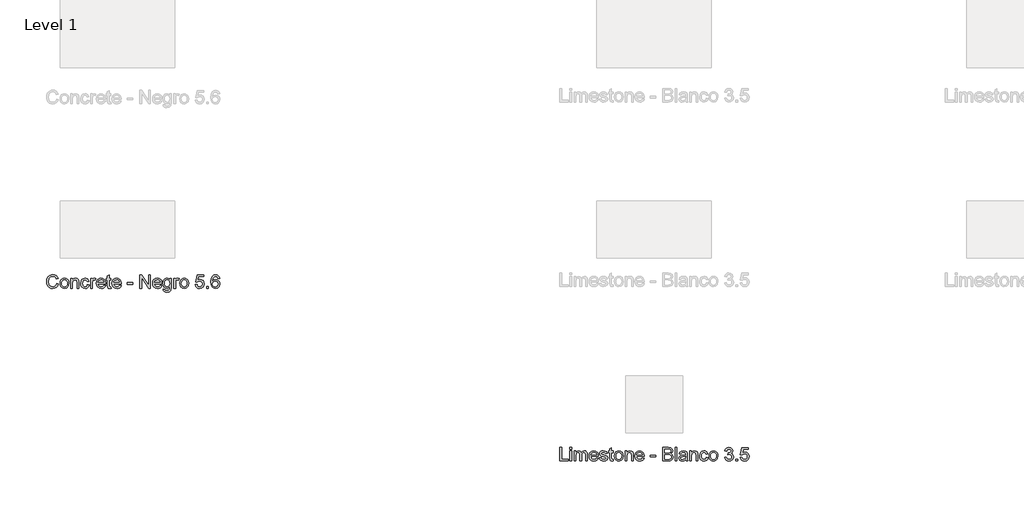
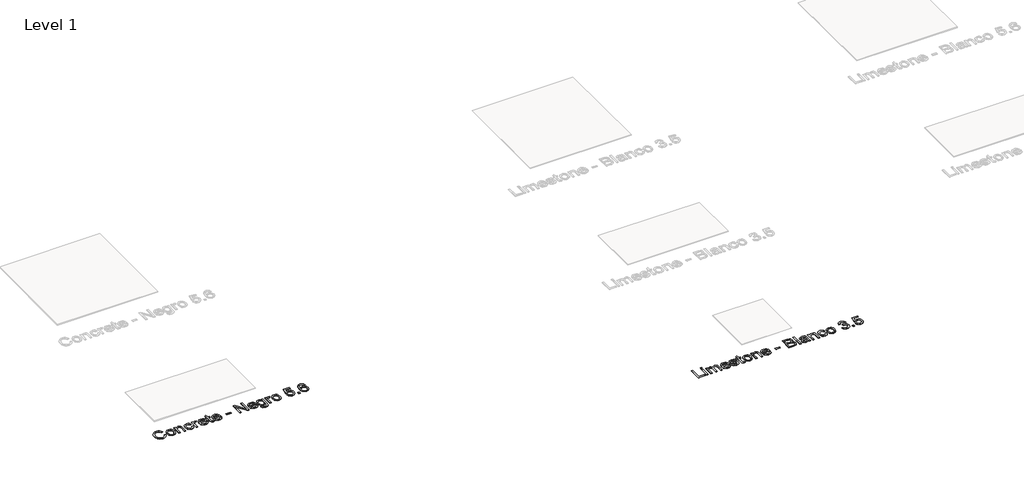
# One storey, part 63 of 80: 2 proxies.
"""IFC4 building model written with IfcOpenShell, lengths in millimetres."""

from ifc_helpers import new_model, si_unit, origin, origin_with_axes, place, context, project, spatial, polyline, outline, extrude, element, save

model = new_model("IFC4")

# Units and contexts
model_context = context("Model", 3, world=origin())
ifc_project = project(units=[si_unit("LENGTHUNIT", "METRE", prefix="MILLI")], contexts=[model_context])

# Site, building, storey
site = spatial("IfcSite", under=ifc_project)
building = spatial("IfcBuilding", under=site)
storey = spatial("IfcBuildingStorey", under=building, Name="Level 1", Elevation=0.0)

# Proxies
placement = place(None, origin())
element("IfcBuildingElementProxy", 1, Name="24\" Arial", ObjectType="24\" Arial", at=placement, inside=storey, context=model_context, shape_type="SweptSolid", body=[
    extrude(outline(polyline([(301.846969, 7132.3794502), (316.6161998, 7128.5717579), (309.8012959, 7111.3614213), (299.1065844, 7098.788104), (285.0585075, 7091.0969982), (268.1835075, 7088.5332963), (251.0524979, 7090.4732002), (237.4479306, 7096.2929117), (227.0200459, 7105.7905079), (219.4190844, 7118.7640655), (214.7784594, 7134.0164694), (213.2315844, 7150.350604), (214.9803825, 7167.5789694), (220.2267767, 7182.4563732), (228.6967286, 7194.5104598), (240.1161998, 7203.2688732), (253.659469, 7208.6018059), (268.5008152, 7210.3794502), (284.6943248, 7208.0789694), (298.0825459, 7201.1775271), (308.2472094, 7190.100604), (314.7700459, 7175.2736809), (300.0008152, 7171.7544502), (294.8806229, 7182.5248829), (287.8854306, 7189.913104), (278.9286998, 7194.1859405), (267.9238921, 7195.6102194), (255.2387959, 7194.0308925), (244.8181229, 7189.2929117), (236.9106709, 7181.8938732), (231.7652383, 7172.3313732), (228.0008152, 7150.3794502), (232.4575459, 7124.9371425), (238.1546613, 7115.4359405), (246.3325459, 7108.6823348), (266.7123536, 7103.3025271), (279.0404786, 7105.1342579), (289.3133152, 7110.6294502), (297.0693248, 7119.7304117), (301.846969, 7132.3794502)])), origin_with_axes(), (0.0, 0.0, 1.0), 2.0),
    extrude(outline(polyline([(331.3854306, 7133.7640655), (334.5801421, 7154.6847386), (344.1642767, 7169.3890655), (356.0056229, 7176.5933925), (370.1835075, 7178.9948348), (385.6991325, 7176.0705559), (398.0921613, 7167.2977194), (406.2159594, 7153.3686329), (408.9238921, 7134.975604), (404.1354306, 7108.6967579), (390.1883152, 7093.8265655), (370.1835075, 7088.5332963), (354.4803825, 7091.4467579), (342.1017767, 7100.1871425), (334.0645171, 7114.4082963), (331.3854306, 7133.7640655)]), holes=[polyline([(346.1546613, 7133.7929117), (347.8637959, 7120.4263252), (352.9911998, 7110.9034886), (360.7075459, 7105.2027675), (370.1835075, 7103.3025271), (379.6161998, 7105.2135848), (387.3181229, 7110.9467579), (392.4455267, 7120.5957963), (394.1546613, 7134.2544502), (392.4347094, 7147.2316136), (387.2748536, 7156.6246425), (379.5621133, 7162.3253636), (370.1835075, 7164.225604), (360.7075459, 7162.3325752), (352.9911998, 7156.6534886), (347.8637959, 7147.1522867), (346.1546613, 7133.7929117)])]), origin_with_axes(), (0.0, 0.0, 1.0), 2.0),
    extrude(outline(polyline([(425.5392767, 7090.3794502), (425.5392767, 7177.1486809), (440.3085075, 7177.1486809), (440.3085075, 7165.0332963), (451.6017767, 7175.5044502), (467.0200459, 7178.9948348), (480.9671613, 7176.1823348), (490.4863921, 7168.7977194), (494.9142767, 7157.9371425), (495.6931229, 7143.6582963), (495.6931229, 7090.3794502), (480.9238921, 7090.3794502), (480.9238921, 7141.6679117), (479.221969, 7154.7352194), (473.2075459, 7161.6438732), (463.0681229, 7164.225604), (447.0440844, 7158.4275271), (441.9924017, 7150.0260848), (440.3085075, 7136.4179117), (440.3085075, 7090.3794502), (425.5392767, 7090.3794502)])), origin_with_axes(), (0.0, 0.0, 1.0), 2.0),
    extrude(outline(polyline([(571.3854306, 7121.7640655), (586.1546613, 7119.9179117), (582.0368729, 7106.7820944), (574.2988921, 7096.8554117), (563.6690844, 7090.6138252), (550.8758152, 7088.5332963), (535.1654786, 7091.4359405), (522.8806229, 7100.1438732), (514.9515363, 7114.2748829), (512.3085075, 7133.4467579), (516.8229306, 7157.9804117), (522.5200459, 7167.178729), (530.5825459, 7173.7448348), (550.6738921, 7178.9948348), (563.1534594, 7177.1919502), (573.1306229, 7171.7832963), (580.2880748, 7163.0573348), (584.3085075, 7151.3025271), (569.5392767, 7149.4563732), (562.6883152, 7160.5188732), (550.7892767, 7164.225604), (541.2448056, 7162.4010848), (533.6690844, 7156.9275271), (528.7255748, 7147.5092579), (527.0777383, 7133.850604), (528.6895171, 7120.0080559), (533.5248536, 7110.5573348), (540.9635556, 7105.116229), (550.3854306, 7103.3025271), (564.3036998, 7107.8313732), (571.3854306, 7121.7640655)])), origin_with_axes(), (0.0, 0.0, 1.0), 2.0),
    extrude(outline(polyline([(599.0777383, 7090.3794502), (599.0777383, 7177.1486809), (612.0008152, 7177.1486809), (612.0008152, 7164.3121425), (621.1738921, 7176.1390655), (630.4046613, 7178.9948348), (645.2315844, 7174.4371425), (640.2988921, 7161.1967579), (629.9142767, 7164.225604), (621.5633152, 7161.3121425), (616.2411998, 7153.2352194), (613.846969, 7135.9852194), (613.846969, 7090.3794502), (599.0777383, 7090.3794502)])), origin_with_axes(), (0.0, 0.0, 1.0), 2.0),
    extrude(outline(polyline([(715.2123536, 7116.225604), (729.6931229, 7114.3794502), (724.4755748, 7103.4683925), (716.1498536, 7095.3121425), (704.9034594, 7090.2280079), (690.9238921, 7088.5332963), (673.5945652, 7091.4575752), (660.2604306, 7100.2304117), (651.7580267, 7114.2820944), (648.9238921, 7133.0429117), (651.7868729, 7152.4347386), (660.3758152, 7166.9371425), (673.5296613, 7175.9804117), (690.0873536, 7178.9948348), (706.1294209, 7175.9876232), (718.9479306, 7166.9659886), (727.3529786, 7152.4924309), (730.1546613, 7133.1294502), (730.0681229, 7129.1486809), (663.6931229, 7129.1486809), (666.2496133, 7118.0933925), (672.1883152, 7109.9659886), (680.7592286, 7104.9683925), (691.2123536, 7103.3025271), (705.6931229, 7106.3890655), (715.2123536, 7116.225604)]), holes=[polyline([(663.6931229, 7143.9179117), (715.3854306, 7143.9179117), (709.471969, 7157.3025271), (700.8613921, 7162.4948348), (690.0296613, 7164.225604), (671.8421613, 7158.7015655), (666.1198056, 7152.2436329), (663.6931229, 7143.9179117)])]), origin_with_axes(), (0.0, 0.0, 1.0), 2.0),
    extrude(outline(polyline([(776.3085075, 7102.6967579), (778.1546613, 7089.9467579), (767.1065844, 7088.5332963), (754.7315844, 7090.9852194), (748.5585075, 7097.4179117), (746.7700459, 7114.1775271), (746.7700459, 7162.3794502), (735.6931229, 7162.3794502), (735.6931229, 7177.1486809), (746.7700459, 7177.1486809), (746.7700459, 7198.2352194), (761.5392767, 7206.9179117), (761.5392767, 7177.1486809), (776.3085075, 7177.1486809), (776.3085075, 7162.3794502), (761.5392767, 7162.3794502), (761.5392767, 7114.6102194), (762.3181229, 7106.9948348), (764.8421613, 7104.2977194), (769.8758152, 7103.3025271), (776.3085075, 7102.6967579)])), origin_with_axes(), (0.0, 0.0, 1.0), 2.0),
    extrude(outline(polyline([(851.8277383, 7116.225604), (866.3085075, 7114.3794502), (861.0909594, 7103.4683925), (852.7652383, 7095.3121425), (841.518844, 7090.2280079), (827.5392767, 7088.5332963), (810.2099498, 7091.4575752), (796.8758152, 7100.2304117), (788.3734113, 7114.2820944), (785.5392767, 7133.0429117), (788.4022575, 7152.4347386), (796.9911998, 7166.9371425), (810.1450459, 7175.9804117), (826.7027383, 7178.9948348), (842.7448056, 7175.9876232), (855.5633152, 7166.9659886), (863.9683633, 7152.4924309), (866.7700459, 7133.1294502), (866.6835075, 7129.1486809), (800.3085075, 7129.1486809), (802.8649979, 7118.0933925), (808.8036998, 7109.9659886), (817.3746133, 7104.9683925), (827.8277383, 7103.3025271), (842.3085075, 7106.3890655), (851.8277383, 7116.225604)]), holes=[polyline([(800.3085075, 7143.9179117), (852.0008152, 7143.9179117), (846.0873536, 7157.3025271), (837.4767767, 7162.4948348), (826.6450459, 7164.225604), (808.4575459, 7158.7015655), (802.7351902, 7152.2436329), (800.3085075, 7143.9179117)])]), origin_with_axes(), (0.0, 0.0, 1.0), 2.0),
    extrude(outline(polyline([(920.3085075, 7125.4563732), (920.3085075, 7140.225604), (966.4623536, 7140.225604), (966.4623536, 7125.4563732), (920.3085075, 7125.4563732)])), origin_with_axes(), (0.0, 0.0, 1.0), 2.0),
    extrude(outline(polyline([(1031.0777383, 7090.3794502), (1031.0777383, 7208.5332963), (1046.8854306, 7208.5332963), (1108.6161998, 7114.9275271), (1108.6161998, 7208.5332963), (1123.3854306, 7208.5332963), (1123.3854306, 7090.3794502), (1107.5777383, 7090.3794502), (1045.846969, 7184.0140655), (1045.846969, 7090.3794502), (1031.0777383, 7090.3794502)])), origin_with_axes(), (0.0, 0.0, 1.0), 2.0),
    extrude(outline(polyline([(1208.1354306, 7116.225604), (1222.6161998, 7114.3794502), (1217.3986517, 7103.4683925), (1209.0729306, 7095.3121425), (1197.8265363, 7090.2280079), (1183.846969, 7088.5332963), (1166.5176421, 7091.4575752), (1153.1835075, 7100.2304117), (1144.6811036, 7114.2820944), (1141.846969, 7133.0429117), (1144.7099498, 7152.4347386), (1153.2988921, 7166.9371425), (1166.4527383, 7175.9804117), (1183.0104306, 7178.9948348), (1199.0524979, 7175.9876232), (1211.8710075, 7166.9659886), (1220.2760556, 7152.4924309), (1223.0777383, 7133.1294502), (1222.9911998, 7129.1486809), (1156.6161998, 7129.1486809), (1159.1726902, 7118.0933925), (1165.1113921, 7109.9659886), (1173.6823056, 7104.9683925), (1184.1354306, 7103.3025271), (1198.6161998, 7106.3890655), (1208.1354306, 7116.225604)]), holes=[polyline([(1156.6161998, 7143.9179117), (1208.3085075, 7143.9179117), (1202.3950459, 7157.3025271), (1193.784469, 7162.4948348), (1182.9527383, 7164.225604), (1164.7652383, 7158.7015655), (1159.0428825, 7152.2436329), (1156.6161998, 7143.9179117)])]), origin_with_axes(), (0.0, 0.0, 1.0), 2.0),
    extrude(outline(polyline([(1234.1546613, 7082.9948348), (1248.9238921, 7081.1486809), (1253.7123536, 7073.3602194), (1268.0488921, 7070.0717579), (1283.1642767, 7073.7929117), (1290.3758152, 7084.2352194), (1291.3854306, 7101.4563732), (1280.9863921, 7093.1486809), (1268.3085075, 7090.3794502), (1253.081344, 7093.6030079), (1241.7267767, 7103.2736809), (1234.6630748, 7117.4515655), (1232.3085075, 7134.1967579), (1236.534469, 7157.0861809), (1248.7652383, 7173.2832963), (1267.5873536, 7178.9948348), (1280.7628344, 7175.7640655), (1291.3854306, 7166.0717579), (1291.3854306, 7177.1486809), (1306.1546613, 7177.1486809), (1306.1546613, 7102.2352194), (1302.1161998, 7073.5477194), (1289.3229306, 7060.2063732), (1267.7604306, 7055.3025271), (1254.018844, 7057.0296905), (1243.1979306, 7062.2111809), (1236.2568248, 7070.8614213), (1234.1546613, 7082.9948348)]), holes=[polyline([(1247.0777383, 7135.2063732), (1248.6534594, 7121.6594982), (1253.3806229, 7112.3457963), (1260.487594, 7106.9479598), (1269.2027383, 7105.1486809), (1277.8529786, 7106.9371425), (1284.9960075, 7112.3025271), (1289.7880748, 7121.4972386), (1291.3854306, 7134.7736809), (1289.7411998, 7147.5777675), (1284.8085075, 7156.7977194), (1277.5609113, 7162.3686329), (1268.971969, 7164.225604), (1260.5380748, 7162.397479), (1253.4671613, 7156.913104), (1248.675094, 7147.8301713), (1247.0777383, 7135.2063732)])]), origin_with_axes(), (0.0, 0.0, 1.0), 2.0),
    extrude(outline(polyline([(1328.3085075, 7090.3794502), (1328.3085075, 7177.1486809), (1341.2315844, 7177.1486809), (1341.2315844, 7164.3121425), (1350.4046613, 7176.1390655), (1359.6354306, 7178.9948348), (1374.4623536, 7174.4371425), (1369.5296613, 7161.1967579), (1359.1450459, 7164.225604), (1350.7940844, 7161.3121425), (1345.471969, 7153.2352194), (1343.0777383, 7135.9852194), (1343.0777383, 7090.3794502), (1328.3085075, 7090.3794502)])), origin_with_axes(), (0.0, 0.0, 1.0), 2.0),
    extrude(outline(polyline([(1380.0008152, 7133.7640655), (1383.1955267, 7154.6847386), (1392.7796613, 7169.3890655), (1404.6210075, 7176.5933925), (1418.7988921, 7178.9948348), (1434.3145171, 7176.0705559), (1446.7075459, 7167.2977194), (1454.831344, 7153.3686329), (1457.5392767, 7134.975604), (1452.7508152, 7108.6967579), (1438.8036998, 7093.8265655), (1418.7988921, 7088.5332963), (1403.0957671, 7091.4467579), (1390.7171613, 7100.1871425), (1382.6799017, 7114.4082963), (1380.0008152, 7133.7640655)]), holes=[polyline([(1394.7700459, 7133.7929117), (1396.4791806, 7120.4263252), (1401.6065844, 7110.9034886), (1409.3229306, 7105.2027675), (1418.7988921, 7103.3025271), (1428.2315844, 7105.2135848), (1435.9335075, 7110.9467579), (1441.0609113, 7120.5957963), (1442.7700459, 7134.2544502), (1441.050094, 7147.2316136), (1435.8902383, 7156.6246425), (1428.1774979, 7162.3253636), (1418.7988921, 7164.225604), (1409.3229306, 7162.3325752), (1401.6065844, 7156.6534886), (1396.4791806, 7147.1522867), (1394.7700459, 7133.7929117)])]), origin_with_axes(), (0.0, 0.0, 1.0), 2.0),
    extrude(outline(polyline([(1516.6161998, 7121.7640655), (1531.3854306, 7123.6102194), (1538.8277383, 7108.3938732), (1554.2604306, 7103.3025271), (1564.846969, 7105.0729598), (1572.7796613, 7110.3842579), (1577.7339883, 7118.6234405), (1579.3854306, 7129.1775271), (1577.8385556, 7139.1150271), (1573.1979306, 7146.7159886), (1565.4274979, 7151.5405079), (1554.4911998, 7153.1486809), (1541.5248536, 7150.5813732), (1533.2315844, 7143.9179117), (1518.4623536, 7145.7640655), (1531.3854306, 7206.6871425), (1588.6161998, 7206.6871425), (1588.6161998, 7191.9179117), (1543.3277383, 7191.9179117), (1537.0104306, 7159.3794502), (1547.5609113, 7165.7832963), (1558.6161998, 7167.9179117), (1572.4154786, 7165.2712771), (1583.8710075, 7157.3313732), (1591.5837479, 7145.2304117), (1594.1546613, 7130.100604), (1591.8397575, 7115.3313732), (1584.8950459, 7102.6967579), (1571.596969, 7092.0741617), (1554.2027383, 7088.5332963), (1539.6967286, 7090.8085367), (1528.1402383, 7097.6342579), (1520.2183633, 7108.2171905), (1516.6161998, 7121.7640655)])), origin_with_axes(), (0.0, 0.0, 1.0), 2.0),
    extrude(outline(polyline([(1614.4623536, 7090.3794502), (1614.4623536, 7105.1486809), (1629.2315844, 7105.1486809), (1629.2315844, 7090.3794502), (1614.4623536, 7090.3794502)])), origin_with_axes(), (0.0, 0.0, 1.0), 2.0),
    extrude(outline(polyline([(1728.9238921, 7177.1486809), (1714.1546613, 7175.3025271), (1708.5585075, 7187.6198348), (1701.8589883, 7192.2280079), (1693.7604306, 7193.7640655), (1680.4335075, 7190.1871425), (1670.3517767, 7176.7592579), (1666.1546613, 7150.4371425), (1679.1786998, 7162.2207963), (1695.3181229, 7166.0717579), (1708.9623536, 7163.4395463), (1720.4142767, 7155.5429117), (1728.1811036, 7143.4780079), (1730.7700459, 7128.3409886), (1725.8950459, 7107.9611809), (1712.4815844, 7093.538104), (1693.1258152, 7088.5332963), (1676.3698056, 7091.850604), (1663.0248536, 7101.8025271), (1654.2952863, 7119.3698348), (1651.3854306, 7145.5332963), (1654.6161998, 7174.9491617), (1664.3085075, 7195.0621425), (1677.5416806, 7205.1655079), (1694.6835075, 7208.5332963), (1707.6426421, 7206.4491617), (1718.0200459, 7200.1967579), (1725.2892767, 7190.2664694), (1728.9238921, 7177.1486809)]), holes=[polyline([(1666.1546613, 7128.5717579), (1669.5729306, 7115.7784886), (1678.659469, 7106.4900271), (1691.971969, 7103.3025271), (1701.7183633, 7104.9539694), (1709.3806229, 7109.9082963), (1714.3457671, 7117.6967579), (1716.0008152, 7127.850604), (1714.3674017, 7137.5969982), (1709.4671613, 7145.0284886), (1701.675094, 7149.7340175), (1691.3661998, 7151.3025271), (1681.6342286, 7149.7340175), (1673.4960075, 7145.0284886), (1667.9899979, 7137.7772867), (1666.1546613, 7128.5717579)])]), origin_with_axes(), (0.0, 0.0, 1.0), 2.0),
])
element("IfcBuildingElementProxy", 2, Name="24\" Arial", ObjectType="24\" Arial", at=placement, inside=storey, context=model_context, shape_type="SweptSolid", body=[
    extrude(outline(polyline([(4709.2315844, 5576.868207), (4709.2315844, 5695.0220532), (4724.0008152, 5695.0220532), (4724.0008152, 5591.6374378), (4783.0777383, 5591.6374378), (4783.0777383, 5576.868207), (4709.2315844, 5576.868207)])), origin_with_axes(), (0.0, 0.0, 1.0), 2.0),
    extrude(outline(polyline([(4797.846969, 5680.2528224), (4797.846969, 5695.0220532), (4812.6161998, 5695.0220532), (4812.6161998, 5680.2528224), (4797.846969, 5680.2528224)])), origin_with_axes(), (0.0, 0.0, 1.0), 2.0),
    extrude(outline(polyline([(4797.846969, 5576.868207), (4797.846969, 5663.6374378), (4812.6161998, 5663.6374378), (4812.6161998, 5576.868207), (4797.846969, 5576.868207)])), origin_with_axes(), (0.0, 0.0, 1.0), 2.0),
    extrude(outline(polyline([(4834.7700459, 5576.868207), (4834.7700459, 5663.6374378), (4849.5392767, 5663.6374378), (4849.5392767, 5649.3585916), (4859.6931229, 5661.055707), (4874.1450459, 5665.4835916), (4888.9431229, 5660.9691686), (4897.0777383, 5648.3201301), (4908.6017767, 5661.1927263), (4923.1546613, 5665.4835916), (4934.2568248, 5663.6987359), (4942.4671613, 5658.3441686), (4947.5404786, 5649.275659), (4949.2315844, 5636.3489763), (4949.2315844, 5576.868207), (4934.4623536, 5576.868207), (4934.4623536, 5630.0028224), (4933.0921613, 5642.3345532), (4928.1306229, 5648.4066686), (4919.6931229, 5650.7143609), (4911.6919209, 5649.2359955), (4905.1690844, 5644.8008993), (4900.831344, 5637.1061878), (4899.3854306, 5625.8489763), (4899.3854306, 5576.868207), (4884.6161998, 5576.868207), (4884.6161998, 5631.6470532), (4881.1979306, 5645.9547455), (4869.9911998, 5650.7143609), (4859.0585075, 5647.541284), (4851.7892767, 5638.2528224), (4849.5392767, 5620.6278224), (4849.5392767, 5576.868207), (4834.7700459, 5576.868207)])), origin_with_axes(), (0.0, 0.0, 1.0), 2.0),
    extrude(outline(polyline([(5032.1354306, 5602.7143609), (5046.6161998, 5600.868207), (5041.3986517, 5589.9571493), (5033.0729306, 5581.8008993), (5021.8265363, 5576.7167647), (5007.846969, 5575.0220532), (4990.5176421, 5577.946332), (4977.1835075, 5586.7191686), (4968.6811036, 5600.7708513), (4965.846969, 5619.5316686), (4968.7099498, 5638.9234955), (4977.2988921, 5653.4258993), (4990.4527383, 5662.4691686), (5007.0104306, 5665.4835916), (5023.0524979, 5662.4763801), (5035.8710075, 5653.4547455), (5044.2760556, 5638.9811878), (5047.0777383, 5619.618207), (5046.9911998, 5615.6374378), (4980.6161998, 5615.6374378), (4983.1726902, 5604.5821493), (4989.1113921, 5596.4547455), (4997.6823056, 5591.4571493), (5008.1354306, 5589.791284), (5022.6161998, 5592.8778224), (5032.1354306, 5602.7143609)]), holes=[polyline([(4980.6161998, 5630.4066686), (5032.3085075, 5630.4066686), (5026.3950459, 5643.791284), (5017.784469, 5648.9835916), (5006.9527383, 5650.7143609), (4988.7652383, 5645.1903224), (4983.0428825, 5638.7323897), (4980.6161998, 5630.4066686)])]), origin_with_axes(), (0.0, 0.0, 1.0), 2.0),
    extrude(outline(polyline([(5056.3085075, 5602.7143609), (5071.0777383, 5604.5605147), (5077.9142767, 5593.5989763), (5093.5777383, 5589.791284), (5108.6354306, 5593.2816686), (5113.5392767, 5601.4739763), (5108.6065844, 5608.1085916), (5093.4046613, 5612.3201301), (5071.1642767, 5619.5460916), (5061.4575459, 5627.9835916), (5058.1546613, 5639.8970532), (5060.8085075, 5650.9018609), (5068.0488921, 5659.3105147), (5077.4383152, 5663.680707), (5090.1450459, 5665.4835916), (5108.1161998, 5662.5845532), (5119.5392767, 5654.7383993), (5124.6161998, 5641.4835916), (5109.846969, 5639.6374378), (5104.2940844, 5647.7864763), (5091.2988921, 5650.7143609), (5077.1642767, 5647.916284), (5072.9238921, 5641.3970532), (5074.6835075, 5637.0989763), (5080.1931229, 5633.8393609), (5092.9142767, 5630.6951301), (5114.5921613, 5623.743207), (5124.659469, 5615.868207), (5128.3085075, 5603.0316686), (5124.0248536, 5588.8970532), (5111.6642767, 5578.6422455), (5093.3758152, 5575.0220532), (5078.4839883, 5576.7672455), (5067.6161998, 5582.0028224), (5060.3613921, 5590.6710916), (5056.3085075, 5602.7143609)])), origin_with_axes(), (0.0, 0.0, 1.0), 2.0),
    extrude(outline(polyline([(5176.3085075, 5589.1855147), (5178.1546613, 5576.4355147), (5167.1065844, 5575.0220532), (5154.7315844, 5577.4739763), (5148.5585075, 5583.9066686), (5146.7700459, 5600.666284), (5146.7700459, 5648.868207), (5135.6931229, 5648.868207), (5135.6931229, 5663.6374378), (5146.7700459, 5663.6374378), (5146.7700459, 5684.7239763), (5161.5392767, 5693.4066686), (5161.5392767, 5663.6374378), (5176.3085075, 5663.6374378), (5176.3085075, 5648.868207), (5161.5392767, 5648.868207), (5161.5392767, 5601.0989763), (5162.3181229, 5593.4835916), (5164.8421613, 5590.7864763), (5169.8758152, 5589.791284), (5176.3085075, 5589.1855147)])), origin_with_axes(), (0.0, 0.0, 1.0), 2.0),
    extrude(outline(polyline([(5187.3854306, 5620.2528224), (5190.5801421, 5641.1734955), (5200.1642767, 5655.8778224), (5212.0056229, 5663.0821493), (5226.1835075, 5665.4835916), (5241.6991325, 5662.5593128), (5254.0921613, 5653.7864763), (5262.2159594, 5639.8573897), (5264.9238921, 5621.4643609), (5260.1354306, 5595.1855147), (5246.1883152, 5580.3153224), (5226.1835075, 5575.0220532), (5210.4803825, 5577.9355147), (5198.1017767, 5586.6758993), (5190.0645171, 5600.8970532), (5187.3854306, 5620.2528224)]), holes=[polyline([(5202.1546613, 5620.2816686), (5203.8637959, 5606.915082), (5208.9911998, 5597.3922455), (5216.7075459, 5591.6915243), (5226.1835075, 5589.791284), (5235.6161998, 5591.7023416), (5243.3181229, 5597.4355147), (5248.4455267, 5607.0845532), (5250.1546613, 5620.743207), (5248.4347094, 5633.7203705), (5243.2748536, 5643.1133993), (5235.5621133, 5648.8141205), (5226.1835075, 5650.7143609), (5216.7075459, 5648.821332), (5208.9911998, 5643.1422455), (5203.8637959, 5633.6410436), (5202.1546613, 5620.2816686)])]), origin_with_axes(), (0.0, 0.0, 1.0), 2.0),
    extrude(outline(polyline([(5281.5392767, 5576.868207), (5281.5392767, 5663.6374378), (5296.3085075, 5663.6374378), (5296.3085075, 5651.5220532), (5307.6017767, 5661.993207), (5323.0200459, 5665.4835916), (5336.9671613, 5662.6710916), (5346.4863921, 5655.2864763), (5350.9142767, 5644.4258993), (5351.6931229, 5630.1470532), (5351.6931229, 5576.868207), (5336.9238921, 5576.868207), (5336.9238921, 5628.1566686), (5335.221969, 5641.2239763), (5329.2075459, 5648.1326301), (5319.0681229, 5650.7143609), (5303.0440844, 5644.916284), (5297.9924017, 5636.5148416), (5296.3085075, 5622.9066686), (5296.3085075, 5576.868207), (5281.5392767, 5576.868207)])), origin_with_axes(), (0.0, 0.0, 1.0), 2.0),
    extrude(outline(polyline([(5432.7508152, 5602.7143609), (5447.2315844, 5600.868207), (5442.0140363, 5589.9571493), (5433.6883152, 5581.8008993), (5422.4419209, 5576.7167647), (5408.4623536, 5575.0220532), (5391.1330267, 5577.946332), (5377.7988921, 5586.7191686), (5369.2964883, 5600.7708513), (5366.4623536, 5619.5316686), (5369.3253344, 5638.9234955), (5377.9142767, 5653.4258993), (5391.0681229, 5662.4691686), (5407.6258152, 5665.4835916), (5423.6678825, 5662.4763801), (5436.4863921, 5653.4547455), (5444.8914402, 5638.9811878), (5447.6931229, 5619.618207), (5447.6065844, 5615.6374378), (5381.2315844, 5615.6374378), (5383.7880748, 5604.5821493), (5389.7267767, 5596.4547455), (5398.2976902, 5591.4571493), (5408.7508152, 5589.791284), (5423.2315844, 5592.8778224), (5432.7508152, 5602.7143609)]), holes=[polyline([(5381.2315844, 5630.4066686), (5432.9238921, 5630.4066686), (5427.0104306, 5643.791284), (5418.3998536, 5648.9835916), (5407.5681229, 5650.7143609), (5389.3806229, 5645.1903224), (5383.6582671, 5638.7323897), (5381.2315844, 5630.4066686)])]), origin_with_axes(), (0.0, 0.0, 1.0), 2.0),
    extrude(outline(polyline([(5501.2315844, 5611.9451301), (5501.2315844, 5626.7143609), (5547.3854306, 5626.7143609), (5547.3854306, 5611.9451301), (5501.2315844, 5611.9451301)])), origin_with_axes(), (0.0, 0.0, 1.0), 2.0),
    extrude(outline(polyline([(5612.0008152, 5576.868207), (5612.0008152, 5695.0220532), (5657.0873536, 5695.0220532), (5679.1690844, 5691.5460916), (5692.2075459, 5680.8585916), (5696.9238921, 5665.743207), (5692.9575459, 5651.9403224), (5680.971969, 5641.4835916), (5695.5248536, 5630.4643609), (5700.6161998, 5612.0893609), (5697.1402383, 5596.2095532), (5688.5296613, 5584.9018609), (5675.6786998, 5578.9018609), (5656.7411998, 5576.868207), (5612.0008152, 5576.868207)]), holes=[polyline([(5626.7700459, 5591.6374378), (5657.0585075, 5591.6374378), (5668.0200459, 5592.2143609), (5677.2940844, 5595.430707), (5683.4383152, 5601.993207), (5685.846969, 5611.9451301), (5683.0200459, 5623.4258993), (5673.8613921, 5630.2768609), (5655.6161998, 5632.2528224), (5626.7700459, 5632.2528224), (5626.7700459, 5591.6374378)]), polyline([(5626.7700459, 5647.0220532), (5653.7411998, 5647.0220532), (5669.4911998, 5648.291284), (5678.9671613, 5653.7576301), (5682.1546613, 5663.3778224), (5679.1835075, 5673.0124378), (5670.6738921, 5678.7095532), (5651.6931229, 5680.2528224), (5626.7700459, 5680.2528224), (5626.7700459, 5647.0220532)])]), origin_with_axes(), (0.0, 0.0, 1.0), 2.0),
    extrude(outline(polyline([(5719.0777383, 5576.868207), (5719.0777383, 5695.0220532), (5733.846969, 5695.0220532), (5733.846969, 5576.868207), (5719.0777383, 5576.868207)])), origin_with_axes(), (0.0, 0.0, 1.0), 2.0),
    extrude(outline(polyline([(5811.3854306, 5587.9451301), (5797.0633152, 5577.9355147), (5781.2411998, 5575.0220532), (5768.8986517, 5576.774457), (5759.7940844, 5582.0316686), (5754.1799017, 5590.0148416), (5752.3085075, 5599.9451301), (5755.1354306, 5611.6278224), (5762.5633152, 5620.1085916), (5772.9046613, 5624.9547455), (5785.6835075, 5627.1758993), (5811.2988921, 5632.2528224), (5811.3854306, 5635.541284), (5807.3181229, 5646.4451301), (5790.9911998, 5650.7143609), (5776.0488921, 5647.8730147), (5768.9238921, 5637.791284), (5754.1546613, 5639.6374378), (5760.5440844, 5654.0605147), (5773.409469, 5662.5124378), (5792.8950459, 5665.4835916), (5810.7940844, 5662.8585916), (5820.9046613, 5656.2672455), (5825.4335075, 5646.243207), (5826.1546613, 5633.3201301), (5826.1546613, 5614.9451301), (5826.9046613, 5589.2864763), (5829.846969, 5576.868207), (5815.0777383, 5576.868207), (5811.3854306, 5587.9451301)]), holes=[polyline([(5811.3854306, 5617.4835916), (5787.5585075, 5612.9547455), (5774.8517767, 5610.5605147), (5769.096969, 5606.666284), (5767.0777383, 5600.9835916), (5771.4767767, 5592.993207), (5784.3854306, 5589.791284), (5799.3277383, 5593.3249378), (5808.9623536, 5601.8778224), (5811.2988921, 5613.3008993), (5811.3854306, 5617.4835916)])]), origin_with_axes(), (0.0, 0.0, 1.0), 2.0),
    extrude(outline(polyline([(5846.4623536, 5576.868207), (5846.4623536, 5663.6374378), (5861.2315844, 5663.6374378), (5861.2315844, 5651.5220532), (5872.5248536, 5661.993207), (5887.9431229, 5665.4835916), (5901.8902383, 5662.6710916), (5911.409469, 5655.2864763), (5915.8373536, 5644.4258993), (5916.6161998, 5630.1470532), (5916.6161998, 5576.868207), (5901.846969, 5576.868207), (5901.846969, 5628.1566686), (5900.1450459, 5641.2239763), (5894.1306229, 5648.1326301), (5883.9911998, 5650.7143609), (5867.9671613, 5644.916284), (5862.9154786, 5636.5148416), (5861.2315844, 5622.9066686), (5861.2315844, 5576.868207), (5846.4623536, 5576.868207)])), origin_with_axes(), (0.0, 0.0, 1.0), 2.0),
    extrude(outline(polyline([(5992.3085075, 5608.2528224), (6007.0777383, 5606.4066686), (6002.9599498, 5593.2708513), (5995.221969, 5583.3441686), (5984.5921613, 5577.102582), (5971.7988921, 5575.0220532), (5956.0885556, 5577.9246974), (5943.8036998, 5586.6326301), (5935.8746133, 5600.7636397), (5933.2315844, 5619.9355147), (5937.7460075, 5644.4691686), (5943.4431229, 5653.6674859), (5951.5056229, 5660.2335916), (5971.596969, 5665.4835916), (5984.0765363, 5663.680707), (5994.0536998, 5658.2720532), (6001.2111517, 5649.5460916), (6005.2315844, 5637.791284), (5990.4623536, 5635.9451301), (5983.6113921, 5647.0076301), (5971.7123536, 5650.7143609), (5962.1678825, 5648.8898416), (5954.5921613, 5643.416284), (5949.6486517, 5633.9980147), (5948.0008152, 5620.3393609), (5949.612594, 5606.4968128), (5954.4479306, 5597.0460916), (5961.8866325, 5591.6049859), (5971.3085075, 5589.791284), (5985.2267767, 5594.3201301), (5992.3085075, 5608.2528224)])), origin_with_axes(), (0.0, 0.0, 1.0), 2.0),
    extrude(outline(polyline([(6016.3085075, 5620.2528224), (6019.503219, 5641.1734955), (6029.0873536, 5655.8778224), (6040.9286998, 5663.0821493), (6055.1065844, 5665.4835916), (6070.6222094, 5662.5593128), (6083.0152383, 5653.7864763), (6091.1390363, 5639.8573897), (6093.846969, 5621.4643609), (6089.0585075, 5595.1855147), (6075.1113921, 5580.3153224), (6055.1065844, 5575.0220532), (6039.4034594, 5577.9355147), (6027.0248536, 5586.6758993), (6018.987594, 5600.8970532), (6016.3085075, 5620.2528224)]), holes=[polyline([(6031.0777383, 5620.2816686), (6032.7868729, 5606.915082), (6037.9142767, 5597.3922455), (6045.6306229, 5591.6915243), (6055.1065844, 5589.791284), (6064.5392767, 5591.7023416), (6072.2411998, 5597.4355147), (6077.3686036, 5607.0845532), (6079.0777383, 5620.743207), (6077.3577863, 5633.7203705), (6072.1979306, 5643.1133993), (6064.4851902, 5648.8141205), (6055.1065844, 5650.7143609), (6045.6306229, 5648.821332), (6037.9142767, 5643.1422455), (6032.7868729, 5633.6410436), (6031.0777383, 5620.2816686)])]), origin_with_axes(), (0.0, 0.0, 1.0), 2.0),
    extrude(outline(polyline([(6152.9238921, 5608.2528224), (6167.6931229, 5610.0989763), (6175.8421613, 5594.5508993), (6191.0873536, 5589.791284), (6201.2123536, 5591.4283032), (6209.0296613, 5596.3393609), (6214.0272575, 5603.666284), (6215.6931229, 5612.5508993), (6214.0416806, 5620.9847936), (6209.0873536, 5627.8249378), (6201.5873536, 5632.3573897), (6192.2988921, 5633.868207), (6181.9431229, 5632.2528224), (6183.5873536, 5647.0220532), (6185.9527383, 5646.8489763), (6202.7123536, 5651.0893609), (6208.2940844, 5656.4691686), (6210.1546613, 5664.1278224), (6204.7604306, 5675.680707), (6190.8565844, 5680.2528224), (6176.7796613, 5675.6374378), (6169.5392767, 5661.791284), (6154.7700459, 5663.6374378), (6159.1186036, 5676.899457), (6166.8565844, 5686.8008993), (6177.4431229, 5692.9667647), (6190.3373536, 5695.0220532), (6208.1498536, 5690.9691686), (6220.6113921, 5679.8922455), (6224.9238921, 5664.993207), (6220.8277383, 5651.3778224), (6208.7123536, 5641.5989763), (6217.9575459, 5637.8633993), (6224.8085075, 5631.5028224), (6229.0488921, 5622.8633993), (6230.4623536, 5612.291284), (6227.6354306, 5597.8970532), (6219.1546613, 5585.868207), (6206.3541806, 5577.7335916), (6190.5681229, 5575.0220532), (6176.2892767, 5577.336957), (6164.6642767, 5584.2816686), (6156.5801421, 5594.9042647), (6152.9238921, 5608.2528224)])), origin_with_axes(), (0.0, 0.0, 1.0), 2.0),
    extrude(outline(polyline([(6250.7700459, 5576.868207), (6250.7700459, 5591.6374378), (6265.5392767, 5591.6374378), (6265.5392767, 5576.868207), (6250.7700459, 5576.868207)])), origin_with_axes(), (0.0, 0.0, 1.0), 2.0),
    extrude(outline(polyline([(6289.5392767, 5608.2528224), (6304.3085075, 5610.0989763), (6311.7508152, 5594.8826301), (6327.1835075, 5589.791284), (6337.7700459, 5591.5617166), (6345.7027383, 5596.8730147), (6350.6570652, 5605.1121974), (6352.3085075, 5615.666284), (6350.7616325, 5625.603784), (6346.1210075, 5633.2047455), (6338.3505748, 5638.0292647), (6327.4142767, 5639.6374378), (6314.4479306, 5637.0701301), (6306.1546613, 5630.4066686), (6291.3854306, 5632.2528224), (6304.3085075, 5693.1758993), (6361.5392767, 5693.1758993), (6361.5392767, 5678.4066686), (6316.2508152, 5678.4066686), (6309.9335075, 5645.868207), (6320.4839883, 5652.2720532), (6331.5392767, 5654.4066686), (6345.3385556, 5651.760034), (6356.7940844, 5643.8201301), (6364.5068248, 5631.7191686), (6367.0777383, 5616.5893609), (6364.7628344, 5601.8201301), (6357.8181229, 5589.1855147), (6344.5200459, 5578.5629186), (6327.1258152, 5575.0220532), (6312.6198056, 5577.2972936), (6301.0633152, 5584.1230147), (6293.1414402, 5594.7059474), (6289.5392767, 5608.2528224)])), origin_with_axes(), (0.0, 0.0, 1.0), 2.0),
])

save(model, "model.ifc")
